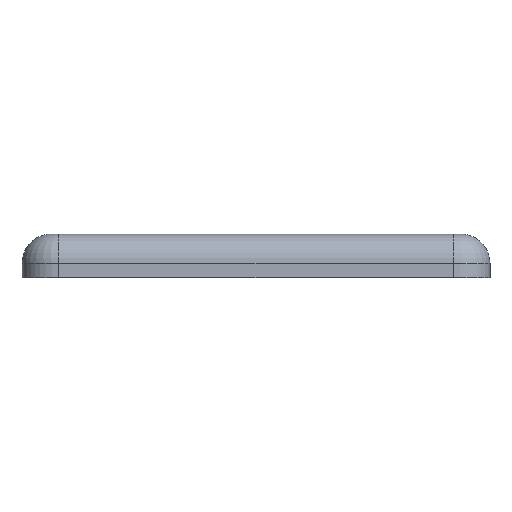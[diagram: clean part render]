
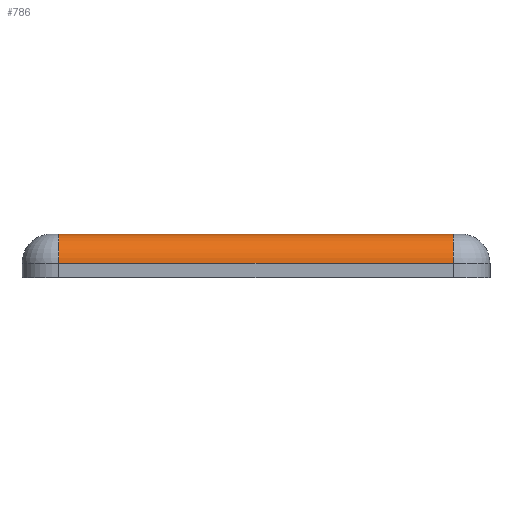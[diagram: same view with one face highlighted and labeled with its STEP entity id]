
A CAD part, left-side view. The second image highlights one B-rep face of the part: STEP entity #786.
In plain terms, the highlighted cylindrical face has radius 2 mm (diameter 4 mm), a partial arc.
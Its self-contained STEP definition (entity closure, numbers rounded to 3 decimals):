
#29 = AXIS2_PLACEMENT_3D ( 'NONE', #6956, #458, #9993 ) ;
#379 = VERTEX_POINT ( 'NONE', #9635 ) ;
#458 = DIRECTION ( 'NONE',  ( 0., -1., 0. ) ) ;
#501 = DIRECTION ( 'NONE',  ( 0., 0., -1. ) ) ;
#744 = CIRCLE ( 'NONE', #10230, 2. ) ;
#786 = ADVANCED_FACE ( 'NONE', ( #10223 ), #2345, .T. ) ;
#1068 = EDGE_CURVE ( 'NONE', #9596, #3647, #8549, .T. ) ;
#1718 = ORIENTED_EDGE ( 'NONE', *, *, #10112, .F. ) ;
#1777 = CARTESIAN_POINT ( 'NONE',  ( -22.5, -20., 1. ) ) ;
#2285 = CARTESIAN_POINT ( 'NONE',  ( -22.5, 9.5, 1. ) ) ;
#2345 = CYLINDRICAL_SURFACE ( 'NONE', #6714, 2. ) ;
#2608 = EDGE_LOOP ( 'NONE', ( #3510, #9096, #3165, #1718 ) ) ;
#3085 = CARTESIAN_POINT ( 'NONE',  ( -20.5, 0., 1. ) ) ;
#3165 = ORIENTED_EDGE ( 'NONE', *, *, #9031, .F. ) ;
#3510 = ORIENTED_EDGE ( 'NONE', *, *, #4243, .T. ) ;
#3647 = VERTEX_POINT ( 'NONE', #7624 ) ;
#3825 = CARTESIAN_POINT ( 'NONE',  ( -20.5, 0., 3. ) ) ;
#3865 = DIRECTION ( 'NONE',  ( 0., 0., -1. ) ) ;
#4023 = DIRECTION ( 'NONE',  ( 0., -1., 0. ) ) ;
#4243 = EDGE_CURVE ( 'NONE', #5712, #3647, #5689, .T. ) ;
#4472 = CARTESIAN_POINT ( 'NONE',  ( -20.5, -20., 1. ) ) ;
#4691 = VECTOR ( 'NONE', #6354, 1000. ) ;
#5395 = LINE ( 'NONE', #3825, #8665 ) ;
#5689 = CIRCLE ( 'NONE', #29, 2. ) ;
#5712 = VERTEX_POINT ( 'NONE', #7447 ) ;
#6354 = DIRECTION ( 'NONE',  ( 0., 1., 0. ) ) ;
#6714 = AXIS2_PLACEMENT_3D ( 'NONE', #3085, #4023, #3865 ) ;
#6956 = CARTESIAN_POINT ( 'NONE',  ( -20.5, 7., 1. ) ) ;
#7447 = CARTESIAN_POINT ( 'NONE',  ( -20.5, 7., 3. ) ) ;
#7624 = CARTESIAN_POINT ( 'NONE',  ( -22.5, 7., 1. ) ) ;
#7636 = DIRECTION ( 'NONE',  ( 0., -1., 0. ) ) ;
#8549 = LINE ( 'NONE', #2285, #4691 ) ;
#8665 = VECTOR ( 'NONE', #10281, 1000. ) ;
#9031 = EDGE_CURVE ( 'NONE', #379, #9596, #744, .T. ) ;
#9096 = ORIENTED_EDGE ( 'NONE', *, *, #1068, .F. ) ;
#9596 = VERTEX_POINT ( 'NONE', #1777 ) ;
#9635 = CARTESIAN_POINT ( 'NONE',  ( -20.5, -20., 3. ) ) ;
#9993 = DIRECTION ( 'NONE',  ( 0., 0., -1. ) ) ;
#10112 = EDGE_CURVE ( 'NONE', #5712, #379, #5395, .T. ) ;
#10223 = FACE_OUTER_BOUND ( 'NONE', #2608, .T. ) ;
#10230 = AXIS2_PLACEMENT_3D ( 'NONE', #4472, #7636, #501 ) ;
#10281 = DIRECTION ( 'NONE',  ( 0., -1., 0. ) ) ;
